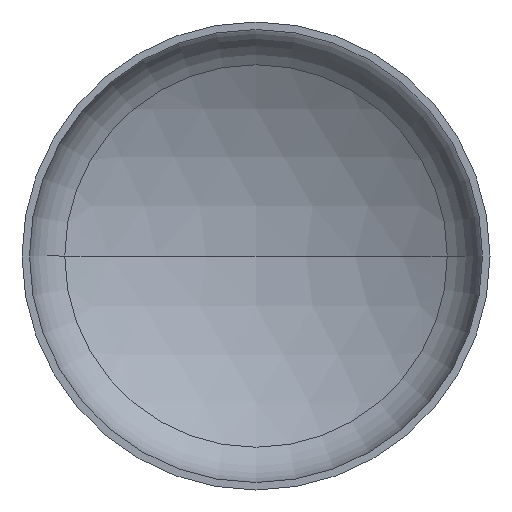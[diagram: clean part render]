
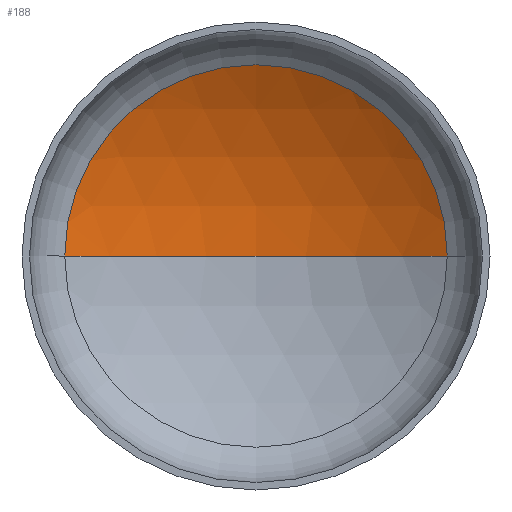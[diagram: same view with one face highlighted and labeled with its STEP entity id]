
A CAD part, front view. The second image highlights one B-rep face of the part: STEP entity #188.
In plain terms, the highlighted spherical face has radius 6000 mm.
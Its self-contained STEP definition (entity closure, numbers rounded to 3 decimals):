
#6 = EDGE_CURVE ( 'NONE', #41, #70, #404, .T. ) ;
#10 = EDGE_CURVE ( 'NONE', #99, #41, #212, .T. ) ;
#12 = EDGE_CURVE ( 'NONE', #99, #70, #396, .T. ) ;
#39 = FACE_OUTER_BOUND ( 'NONE', #86, .T. ) ;
#40 = ORIENTED_EDGE ( 'NONE', *, *, #12, .F. ) ;
#41 = VERTEX_POINT ( 'NONE', #316 ) ;
#70 = VERTEX_POINT ( 'NONE', #174 ) ;
#86 = EDGE_LOOP ( 'NONE', ( #40, #286, #109 ) ) ;
#99 = VERTEX_POINT ( 'NONE', #226 ) ;
#109 = ORIENTED_EDGE ( 'NONE', *, *, #6, .T. ) ;
#143 = DIRECTION ( 'NONE',  ( -1., 0., 0. ) ) ;
#146 = CARTESIAN_POINT ( 'NONE',  ( 0., -4090.141, 0. ) ) ;
#164 = AXIS2_PLACEMENT_3D ( 'NONE', #146, #167, #143 ) ;
#167 = DIRECTION ( 'NONE',  ( 0., 0., -1. ) ) ;
#173 = CARTESIAN_POINT ( 'NONE',  ( 0., -4090.141, 0. ) ) ;
#174 = CARTESIAN_POINT ( 'NONE',  ( -3065.015, 1067.928, 0. ) ) ;
#181 = DIRECTION ( 'NONE',  ( 0., 0., 1. ) ) ;
#188 = ADVANCED_FACE ( 'NONE', ( #39 ), #309, .F. ) ;
#192 = DIRECTION ( 'NONE',  ( 1., 0., 0. ) ) ;
#206 = AXIS2_PLACEMENT_3D ( 'NONE', #222, #220, #218 ) ;
#212 = CIRCLE ( 'NONE', #242, 6000. ) ;
#218 = DIRECTION ( 'NONE',  ( 1., 0., 0. ) ) ;
#220 = DIRECTION ( 'NONE',  ( 0., -1., 0. ) ) ;
#222 = CARTESIAN_POINT ( 'NONE',  ( 0., 1067.928, 0. ) ) ;
#226 = CARTESIAN_POINT ( 'NONE',  ( 0., 1909.859, 0. ) ) ;
#242 = AXIS2_PLACEMENT_3D ( 'NONE', #319, #318, #304 ) ;
#254 = AXIS2_PLACEMENT_3D ( 'NONE', #173, #181, #192 ) ;
#286 = ORIENTED_EDGE ( 'NONE', *, *, #10, .T. ) ;
#304 = DIRECTION ( 'NONE',  ( -1., 0., 0. ) ) ;
#309 = SPHERICAL_SURFACE ( 'NONE', #164, 6000. ) ;
#316 = CARTESIAN_POINT ( 'NONE',  ( 3065.015, 1067.928, 0. ) ) ;
#318 = DIRECTION ( 'NONE',  ( 0., 0., -1. ) ) ;
#319 = CARTESIAN_POINT ( 'NONE',  ( 0., -4090.141, 0. ) ) ;
#396 = CIRCLE ( 'NONE', #254, 6000. ) ;
#404 = CIRCLE ( 'NONE', #206, 3065.015 ) ;
